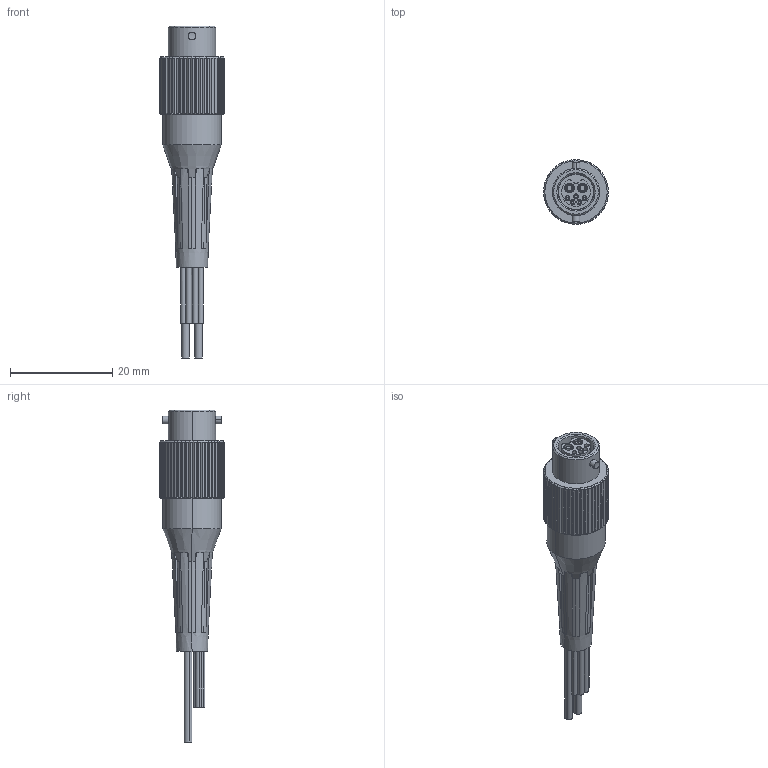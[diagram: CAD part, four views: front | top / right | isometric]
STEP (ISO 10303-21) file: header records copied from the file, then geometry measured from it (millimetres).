
FILE_DESCRIPTION (( 'STEP AP214' ), '1' );
FILE_NAME ('A90156-001 REV A.STEP', '2018-01-24T17:59:22', ( '' ), ( '' ), 'SwSTEP 2.0', 'SolidWorks 2017', '' );
FILE_SCHEMA (( 'AUTOMOTIVE_DESIGN' ));
Length unit declared in the file: inch
Products named in the file (1): A90156-001 REV_A
Bounding box: 12.7 x 12.7 x 65.06 mm (x, y, z)
Volume: 2866.8 mm3; surface area: 4050.5 mm2
Topology: 1 solids, 1 shells, 391 faces, 1027 edges, 667 vertices
Faces by surface type: plane 161, cylinder 156, cone 48, torus 16, bspline 8, sphere 2
Entity records: 13457 total; most frequent: CARTESIAN_POINT 3940, ORIENTED_EDGE 2042, DIRECTION 1933, EDGE_CURVE 1021, AXIS2_PLACEMENT_3D 790, VERTEX_POINT 663, EDGE_LOOP 434, CIRCLE 406
